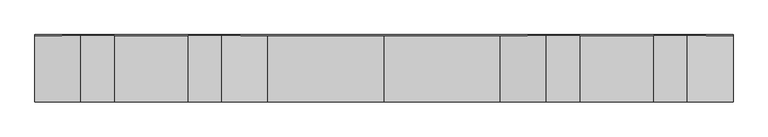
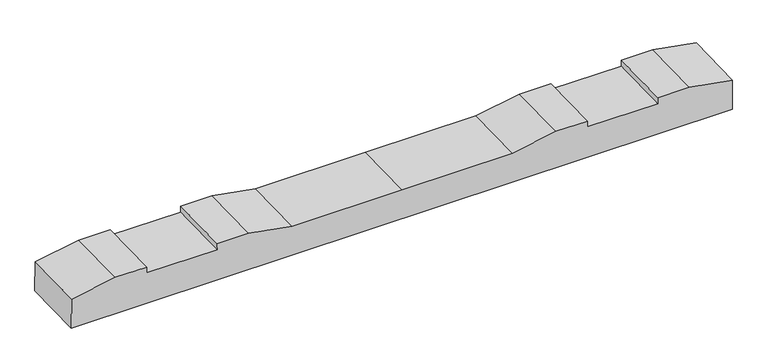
"""IFC4 building model written with IfcOpenShell, lengths in millimetres: proxy geometry, 轨枕-立面角度 : 轨枕-立面角度."""

from ifc_helpers import new_model, si_unit, frame, origin, place, context, project, spatial, polyline, outline, extrude, source, transform, mapped, element, save


def generic_models_38b48816(model_context):
    return source(origin(), model_context, "Body", "SweptSolid", [
        extrude(outline(polyline([(0.0, 0.0), (2099.7669328, 0.0), (2099.7669328, -100.020689), (1961.8834664, -124.5), (1861.8834664, -124.5), (1861.8834664, -104.5), (1637.8834664, -104.5), (1637.8834664, -124.5), (1537.8834664, -124.5), (1399.8834664, -100.0), (1049.8834664, -100.0), (699.8834664, -100.0), (561.8834664, -124.5), (461.8834664, -124.5), (461.8834664, -104.5), (237.8834664, -104.5), (237.8834664, -124.5), (137.8834664, -124.5), (0.0, -100.020689), (0.0, 0.0)])), frame((-1049.8834664, -97.6570451, -106.6927905), z_axis=(0.0, 0.999753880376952, 0.022185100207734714), x_axis=(1.0, 0.0, 0.0)), (0.0, 0.0, 1.0), 200.0),
    ])


if __name__ == "__main__":
    model = new_model("IFC4")
    model_context = context("Model", 3, world=origin())
    ifc_project = project(units=[si_unit("LENGTHUNIT", "METRE", prefix="MILLI")], contexts=[model_context])
    site = spatial("IfcSite", under=ifc_project)
    building = spatial("IfcBuilding", under=site)
    placement = place(None, origin())
    generic_models_shape = generic_models_38b48816(model_context)
    element("IfcBuildingElementProxy", 1, Name="轨枕-立面角度 : 轨枕-立面角度", ObjectType="轨枕-立面角度 : 轨枕-立面角度", at=placement, inside=building, context=model_context, shape_type="MappedRepresentation", body=[
        mapped(generic_models_shape, transform((0.0, 0.0, 0.0), x_axis=(1.0, 0.0, 0.0), y_axis=(0.0, 1.0, 0.0), z_axis=(0.0, 0.0, 1.0))),
    ])
    save(model, "model.ifc")
